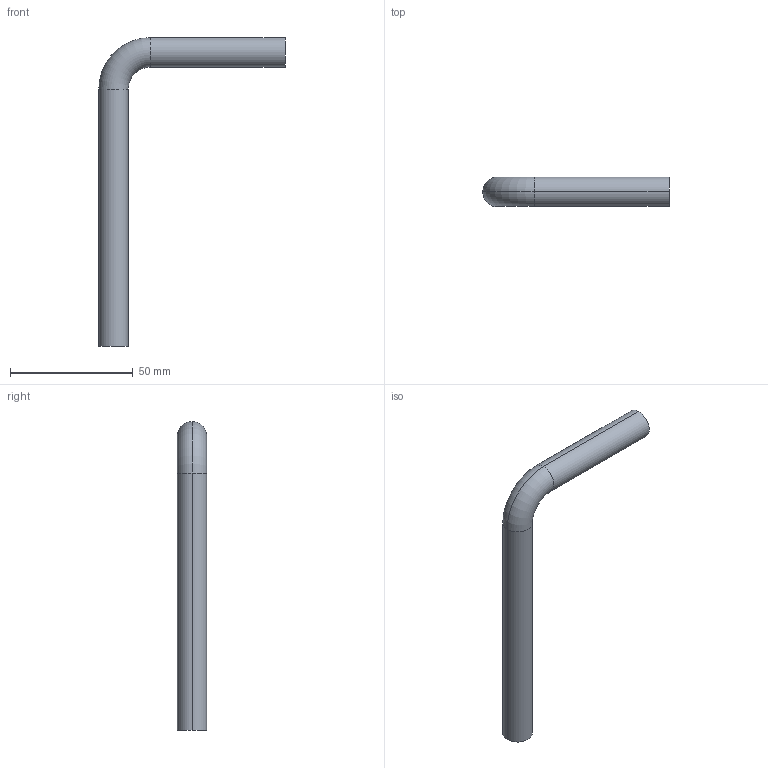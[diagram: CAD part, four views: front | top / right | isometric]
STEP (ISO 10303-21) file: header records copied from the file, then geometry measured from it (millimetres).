
FILE_DESCRIPTION(('OneSpaceDesigner STEP Export'),'2;1');
FILE_NAME('C1425 12x12.stp','2010-06-15T15:31:07',(''),(''),'OneSpace Designer STEP processor for AP214 (Solid Model)','OneSpace Modeling 15.00A 14-Mar-2007 (C) CoCreate Software GmbH','');
FILE_SCHEMA(('AUTOMOTIVE_DESIGN { 1 0 10303 214 1 1 1 1 }'));
Length unit declared in the file: millimetre
Products named in the file (2): C1425_12x12
Assembly tree (1 placements, depth 2):
  C1425_12x12
    C1425_12x12
Bounding box: 76 x 12 x 126 mm (x, y, z)
Volume: 9082.7 mm3; surface area: 12209.2 mm2
Topology: 1 solids, 1 shells, 14 faces, 30 edges, 18 vertices
Faces by surface type: cylinder 8, torus 4, plane 2
Entity records: 367 total; most frequent: ORIENTED_EDGE 60, DIRECTION 56, CARTESIAN_POINT 50, EDGE_CURVE 30, AXIS2_PLACEMENT_3D 24, VERTEX_POINT 18, EDGE_LOOP 16, CIRCLE 14
